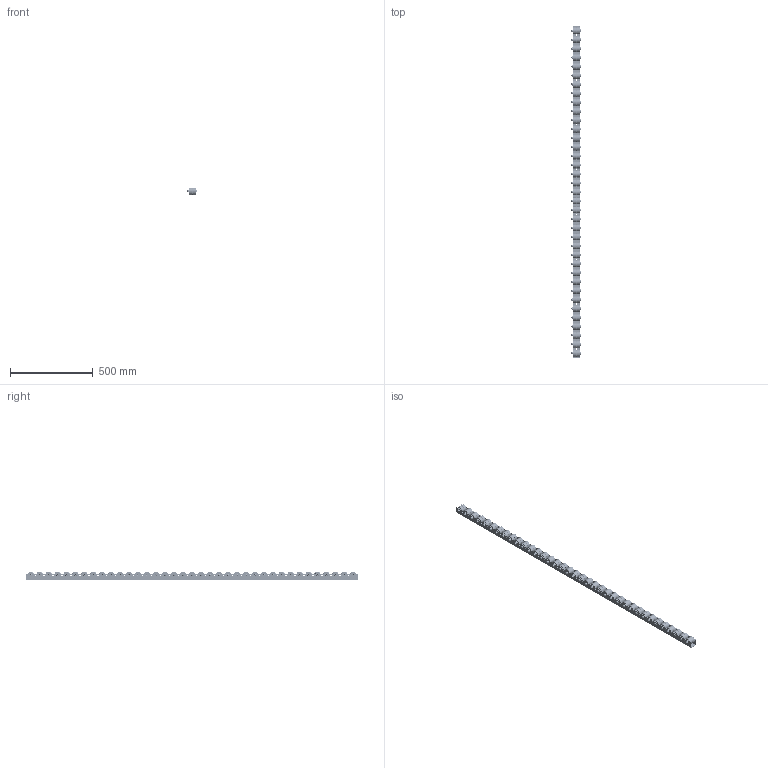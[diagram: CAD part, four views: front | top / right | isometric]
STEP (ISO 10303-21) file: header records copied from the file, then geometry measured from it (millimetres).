
FILE_DESCRIPTION( ( 'Unknown' ), '1' );
FILE_NAME( 'D:/Construktor/Listwy rolkowe 2015/Listwa T651/Listwa T651.stp', 'Unknown', ( 'Unknown' ), ( 'Unknown' ), 'PSStep 17.0.49', 'Unknown', ' ' );
FILE_SCHEMA( ( 'AUTOMOTIVE_DESIGN { 1 0 10303 214 1 1 1 1 }' ) );
Length unit declared in the file: millimetre
Products named in the file (11): Assem1; DIN_931_M8x35; DIN_931_M8x35-oa0; DIN_931_M8x35-oa1; Nut_DIN_980_M_M8_v10.50; Ceownik T500; Rolka 611; Rolka 611-oa2; Rolka 611-oa3; Rolka 611-oa4; Rolka 611-oa5
Assembly tree (149 placements, depth 2):
  Assem1
    DIN_931_M8x35  x35
    DIN_931_M8x35-oa0
    DIN_931_M8x35-oa1
    Nut_DIN_980_M_M8_v10.50  x37
    Ceownik T500
    Rolka 611  x70
    Rolka 611-oa2
    Rolka 611-oa3
    Rolka 611-oa4
    Rolka 611-oa5
Bounding box: 60.3 x 2000 x 50.98 mm (x, y, z)
Volume: 1881670.6 mm3; surface area: 1141298.4 mm2
Topology: 149 solids, 149 shells, 5829 faces, 15047 edges, 9886 vertices
Faces by surface type: plane 4080, cylinder 898, cone 555, torus 296
Full cylindrical faces by diameter (mm): 6.466 x37, 6.647 x37, 6.697 x37, 8 x74, 8.2 x154, 8.3 x74, 8.4 x37, 11.63 x37, 12.5 x37, 14 x148, 30 x74, 32 x74, 42 x74
Entity records: 21682 total; most frequent: CARTESIAN_POINT 3103, DIRECTION 3084, ORIENTED_EDGE 2324, AXIS2_PLACEMENT_3D 1307, EDGE_CURVE 1162, EDGE_LOOP 1090, VERTEX_POINT 902, FACE_OUTER_BOUND 741
